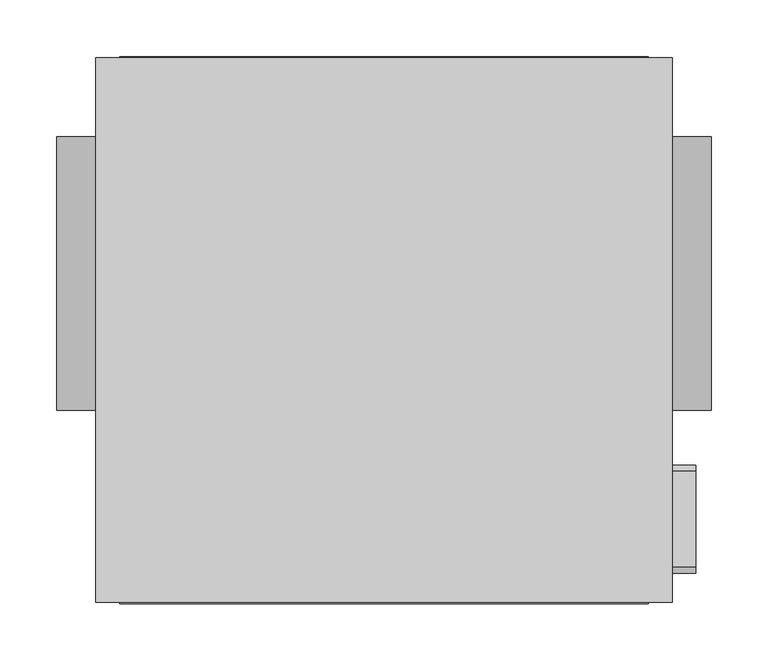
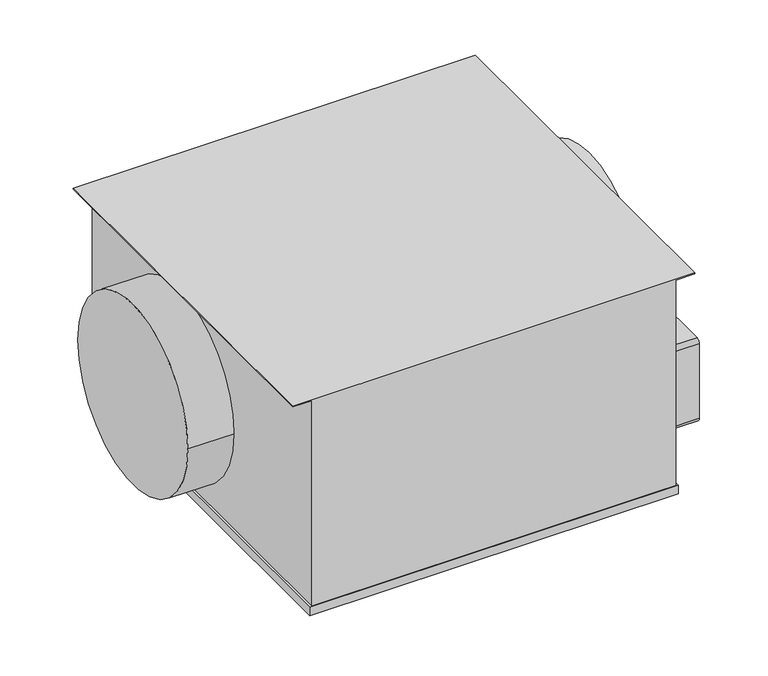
"""IFC4 building model written with IfcOpenShell, lengths in millimetres: unitary equipment geometry, VE-Wentylator-ParaForma-Harmann-ECOBOX_EC-Nawiewny : 250/1200EC."""

import ifcopenshell
import ifcopenshell.guid

model = None  # the IFC model being written
_history = None  # IfcOwnerHistory: only IFC2X3 demands one
_inside = {}  # id of a spatial element -> (the spatial element, [elements in it])
_under = {}  # id of a project, library or spatial element -> (it, [spatial elements below it])
_declared = {}  # id of a project -> (the project, [libraries it declares])
_typed = {}  # id of a type object -> (the type object, [elements of that type])
_made_of = {}  # id of a material, layer set ... -> (it, [elements and type objects made of it])


def new_model(schema):
    """Start an empty IFC model of exactly this schema.

    Asked for "IFC4X3", IfcOpenShell would pick the latest addendum, in which some entities
    have other attributes; the version numbers below select the first issue.
    IFC2X3 requires an IfcOwnerHistory on every rooted entity: one is made here for all.
    """
    global model, _history
    if schema == "IFC4X3":
        model = ifcopenshell.file(schema_version=(4, 3, 0, 0))
    else:
        model = ifcopenshell.file(schema=schema)
    _inside.clear()
    _under.clear()
    _declared.clear()
    _typed.clear()
    _made_of.clear()
    _history = None
    if model.schema == "IFC2X3":
        org = make("IfcOrganization", Name="unknown")
        user = make(
            "IfcPersonAndOrganization",
            ThePerson=make("IfcPerson", FamilyName="unknown"),
            TheOrganization=org,
        )
        app = make(
            "IfcApplication",
            ApplicationDeveloper=org,
            Version="unknown",
            ApplicationFullName="unknown",
            ApplicationIdentifier="unknown",
        )
        _history = make(
            "IfcOwnerHistory",
            OwningUser=user,
            OwningApplication=app,
            ChangeAction="ADDED",
            CreationDate=0,
        )
    return model


def make(cls, **values):
    """One entity of the class cls with the attributes given. An attribute that is None is left unset."""
    return model.create_entity(
        cls, **{name: value for name, value in values.items() if value is not None}
    )


def rooted(cls, **values):
    """An entity with a GlobalId (a new one), such as an element, a storey or a relation."""
    return make(cls, GlobalId=ifcopenshell.guid.new(), OwnerHistory=_history, **values)


def si_unit(unit_type, name, prefix=None):
    """IfcSIUnit, for example si_unit("LENGTHUNIT", "METRE", prefix="MILLI")."""
    return make("IfcSIUnit", UnitType=unit_type, Prefix=prefix, Name=name)


def assignment(units):
    """IfcUnitAssignment: the units of a project."""
    return None if units is None else make("IfcUnitAssignment", Units=units)


def point(xyz):
    """IfcCartesianPoint."""
    return None if xyz is None else make("IfcCartesianPoint", Coordinates=xyz)


def direction(xyz):
    """IfcDirection."""
    return None if xyz is None else make("IfcDirection", DirectionRatios=xyz)


def frame(location, z_axis=None, x_axis=None):
    """IfcAxis2Placement3D, a coordinate frame: its origin and axes. An axis left out is left unset."""
    return make(
        "IfcAxis2Placement3D",
        Location=point(location),
        Axis=direction(z_axis),
        RefDirection=direction(x_axis),
    )


def frame_2d(location, x_axis=None):
    """IfcAxis2Placement2D, a coordinate frame in the plane: its origin and x axis."""
    return make(
        "IfcAxis2Placement2D", Location=point(location), RefDirection=direction(x_axis)
    )


def origin():
    """The frame at (0, 0, 0) with its axes left unset."""
    return frame((0.0, 0.0, 0.0))


def origin_2d():
    """The frame at (0, 0) in the plane with its x axis left unset."""
    return frame_2d((0.0, 0.0))


def place(relative_to, where):
    """IfcLocalPlacement: puts the frame where relative to a parent placement (None: the world)."""
    return make(
        "IfcLocalPlacement", PlacementRelTo=relative_to, RelativePlacement=where
    )


def context(
    kind, dimensions, precision=None, world=None, true_north=None, identifier=None
):
    """IfcGeometricRepresentationContext, for example the 3D "Model" context."""
    return make(
        "IfcGeometricRepresentationContext",
        ContextIdentifier=identifier,
        ContextType=kind,
        CoordinateSpaceDimension=dimensions,
        Precision=precision,
        WorldCoordinateSystem=world,
        TrueNorth=true_north,
    )


def project(units=None, contexts=None):
    """IfcProject with its units and contexts."""
    return rooted(
        "IfcProject",
        Name="project",
        RepresentationContexts=contexts,
        UnitsInContext=assignment(units),
    )


def spatial(cls, under=None, at=None, **own):
    """A site, building, storey or space (cls), placed at a placement, below another one or the project."""
    s = rooted(cls, ObjectPlacement=at, **own)
    if under is not None:
        _under.setdefault(under.id(), (under, []))[1].append(s)
    return s


def polyline(points):
    """IfcPolyline through the points."""
    return make("IfcPolyline", Points=[point(p) for p in points])


def circle_curve(where, radius):
    """IfcCircle in the frame where."""
    return make("IfcCircle", Position=where, Radius=radius)


def trimmed(basis, trim1, trim2, sense, master):
    """IfcTrimmedCurve: the piece of a basis curve between two trims."""
    return make(
        "IfcTrimmedCurve",
        BasisCurve=basis,
        Trim1=trim1,
        Trim2=trim2,
        SenseAgreement=sense,
        MasterRepresentation=master,
    )


def segment(curve, same_sense, transition):
    """IfcCompositeCurveSegment."""
    return make(
        "IfcCompositeCurveSegment",
        Transition=transition,
        SameSense=same_sense,
        ParentCurve=curve,
    )


def composite_curve(segments, self_intersect=None):
    """IfcCompositeCurve: segments joined end to end."""
    return make("IfcCompositeCurve", Segments=segments, SelfIntersect=self_intersect)


def outline(outer, holes=None, kind="AREA"):
    """IfcArbitraryClosedProfileDef: a profile drawn as a closed curve; with holes, ...WithVoids."""
    if holes is None:
        return make("IfcArbitraryClosedProfileDef", ProfileType=kind, OuterCurve=outer)
    return make(
        "IfcArbitraryProfileDefWithVoids",
        ProfileType=kind,
        OuterCurve=outer,
        InnerCurves=holes,
    )


def extrude(swept, where, along, depth):
    """IfcExtrudedAreaSolid: the profile swept, set in the frame where, extruded along a direction by depth."""
    return make(
        "IfcExtrudedAreaSolid",
        SweptArea=swept,
        Position=where,
        ExtrudedDirection=direction(along),
        Depth=depth,
    )


def shape(context_of_items, identifier, shape_type, items):
    """IfcShapeRepresentation: the items that make up one representation, for example the "Body"."""
    return make(
        "IfcShapeRepresentation",
        ContextOfItems=context_of_items,
        RepresentationIdentifier=identifier,
        RepresentationType=shape_type,
        Items=items,
    )


def source(mapping_origin, context_of_items, identifier, shape_type, items):
    """IfcRepresentationMap: a shape defined once, which mapped items show again and again."""
    return make(
        "IfcRepresentationMap",
        MappingOrigin=mapping_origin,
        MappedRepresentation=shape(context_of_items, identifier, shape_type, items),
    )


def transform(
    local_origin,
    x_axis=None,
    y_axis=None,
    z_axis=None,
    scale=None,
    scale2=None,
    scale3=None,
    uniform=True,
):
    """IfcCartesianTransformationOperator3D, or its non-uniform kind. x_axis, y_axis, z_axis: its Axis1, 2, 3."""
    if uniform:
        return make(
            "IfcCartesianTransformationOperator3D",
            Axis1=direction(x_axis),
            Axis2=direction(y_axis),
            LocalOrigin=point(local_origin),
            Scale=scale,
            Axis3=direction(z_axis),
        )
    return make(
        "IfcCartesianTransformationOperator3DnonUniform",
        Axis1=direction(x_axis),
        Axis2=direction(y_axis),
        LocalOrigin=point(local_origin),
        Scale=scale,
        Axis3=direction(z_axis),
        Scale2=scale2,
        Scale3=scale3,
    )


def mapped(mapping_source, mapping_target):
    """IfcMappedItem: shows the shape of a source again, moved by a transform."""
    return make(
        "IfcMappedItem", MappingSource=mapping_source, MappingTarget=mapping_target
    )


def made_of(thing, what):
    """Note that an element or type object is made of a material, layer set ...; save() writes the relation."""
    if what is not None:
        _made_of.setdefault(what.id(), (what, []))[1].append(thing)
    return thing


def element(
    cls,
    number,
    at=None,
    inside=None,
    cuts=None,
    type_object=None,
    material=None,
    context=None,
    identifier="Body",
    shape_type=None,
    held_by="IfcProductDefinitionShape",
    body=None,
    shapes=None,
    **own,
):
    """One element of the class cls, such as IfcWall. Its Tag is "e" and its number.

    at: its placement. inside: the storey or other place that contains it. cuts: it is an
    opening in that element (IfcRelVoidsElement). A single representation is given by context,
    identifier, shape_type and body (its items); several are given by shapes. held_by: the class
    of the entity that holds the representations. save() writes the other relations.
    """
    e = rooted(cls, Tag="e%d" % number, ObjectPlacement=at, **own)
    if body is not None:
        shapes = [shape(context, identifier, shape_type, body)]
    if shapes is not None:
        e.Representation = make(held_by, Representations=shapes)
    if inside is not None:
        _inside.setdefault(inside.id(), (inside, []))[1].append(e)
    if cuts is not None:
        rooted(
            "IfcRelVoidsElement", RelatingBuildingElement=cuts, RelatedOpeningElement=e
        )
    if type_object is not None:
        _typed.setdefault(type_object.id(), (type_object, []))[1].append(e)
    return made_of(e, material)


def aggregate(whole, parts):
    """IfcRelAggregates: a whole, such as a stair, and the parts it consists of."""
    return rooted("IfcRelAggregates", RelatingObject=whole, RelatedObjects=parts)


def save(model, path):
    """Write the relations noted so far, then the file.

    IfcRelAggregates (storeys below a building ...), IfcRelContainedInSpatialStructure (elements
    in a storey), IfcRelDefinesByType, IfcRelAssociatesMaterial and IfcRelDeclares: one each for
    every whole, place, type object, material and project.
    """
    for whole, parts in _under.values():
        aggregate(whole, parts)
    for where, things in _inside.values():
        rooted(
            "IfcRelContainedInSpatialStructure",
            RelatedElements=things,
            RelatingStructure=where,
        )
    for kind, things in _typed.values():
        rooted("IfcRelDefinesByType", RelatedObjects=things, RelatingType=kind)
    for what, things in _made_of.values():
        rooted("IfcRelAssociatesMaterial", RelatedObjects=things, RelatingMaterial=what)
    for by, libraries in _declared.values():
        rooted("IfcRelDeclares", RelatingContext=by, RelatedDefinitions=libraries)
    model.write(path)


def unitary_equipment_b75d6688(model_context):
    return source(origin(), model_context, "Body", "SweptSolid", [
        extrude(outline(composite_curve([segment(trimmed(circle_curve(frame_2d((-259.1, -69.5)), 5.0), [point((-259.1, -74.5))], [point((-264.1, -69.5))], False, "CARTESIAN"), True, "CONTINUOUS"), segment(polyline([(-264.1, -69.5), (-264.1, 30.5)]), True, "CONTINUOUS"), segment(trimmed(circle_curve(frame_2d((-259.1, 30.5)), 5.0), [point((-264.1, 30.5))], [point((-259.1, 35.5))], False, "CARTESIAN"), True, "CONTINUOUS"), segment(polyline([(-259.1, 35.5), (-174.1, 35.5)]), True, "CONTINUOUS"), segment(trimmed(circle_curve(frame_2d((-174.1, 30.5)), 5.0), [point((-174.1, 35.5))], [point((-169.1, 30.5))], False, "CARTESIAN"), True, "CONTINUOUS"), segment(polyline([(-169.1, 30.5), (-169.1, -69.5)]), True, "CONTINUOUS"), segment(trimmed(circle_curve(frame_2d((-174.1, -69.5)), 5.0), [point((-169.1, -69.5))], [point((-174.1, -74.5))], False, "CARTESIAN"), True, "CONTINUOUS"), segment(polyline([(-174.1, -74.5), (-259.1, -74.5)]), True, "CONTINUOUS")], self_intersect=False)), frame((230.0, 0.0, 0.0), z_axis=(1.0, 0.0, 0.0), x_axis=(0.0, 1.0, 0.0)), (0.0, 0.0, 1.0), 45.0),
        extrude(outline(polyline([(-232.9, -291.1), (-232.9, 191.1), (232.9, 191.1), (232.9, -291.1), (-232.9, -291.1)])), frame((0.0, 0.0, -138.8), z_axis=(0.0, 0.0, 1.0), x_axis=(1.0, 0.0, 0.0)), (0.0, 0.0, 1.0), 10.9),
        extrude(outline(polyline([(148.0, -254.0), (147.0, -254.0), (147.0, -230.0), (-127.9, -230.0), (-127.9, 230.0), (147.0, 230.0), (147.0, 254.0), (148.0, 254.0), (148.0, -254.0)])), frame((0.0, -290.0, 0.0), z_axis=(0.0, 1.0, 0.0), x_axis=(0.0, 0.0, 1.0)), (0.0, 0.0, 1.0), 480.0),
        extrude(outline(composite_curve([segment(trimmed(circle_curve(origin_2d(), 120.5), [point((-120.5, 0.0))], [point((120.5, 0.0))], False, "CARTESIAN"), True, "CONTINUOUS"), segment(trimmed(circle_curve(origin_2d(), 120.5), [point((120.5, 0.0))], [point((-120.5, 0.0))], False, "CARTESIAN"), True, "CONTINUOUS")], self_intersect=False)), frame((230.0, 0.0, 0.0), z_axis=(1.0, 0.0, 0.0), x_axis=(0.0, 1.0, 0.0)), (0.0, 0.0, 1.0), 58.5),
        extrude(outline(composite_curve([segment(trimmed(circle_curve(origin_2d(), 120.5), [point((-120.5, 0.0))], [point((120.5, 0.0))], False, "CARTESIAN"), True, "CONTINUOUS"), segment(trimmed(circle_curve(origin_2d(), 120.5), [point((120.5, 0.0))], [point((-120.5, 0.0))], False, "CARTESIAN"), True, "CONTINUOUS")], self_intersect=False)), frame((-288.5, 0.0, 0.0), z_axis=(1.0, 0.0, 0.0), x_axis=(0.0, 1.0, 0.0)), (0.0, 0.0, 1.0), 58.5),
    ])


if __name__ == "__main__":
    model = new_model("IFC4")
    model_context = context("Model", 3, world=origin())
    ifc_project = project(units=[si_unit("LENGTHUNIT", "METRE", prefix="MILLI")], contexts=[model_context])
    site = spatial("IfcSite", under=ifc_project)
    building = spatial("IfcBuilding", under=site)
    placement = place(None, origin())
    unitary_equipment_shape = unitary_equipment_b75d6688(model_context)
    element("IfcUnitaryEquipment", 1, ObjectType="VE-Wentylator-ParaForma-Harmann-ECOBOX_EC-Nawiewny : 250/1200EC", at=placement, inside=building, context=model_context, shape_type="MappedRepresentation", body=[
        mapped(unitary_equipment_shape, transform((0.0, 0.0, 0.0), x_axis=(1.0, 0.0, 0.0), y_axis=(0.0, 1.0, 0.0), z_axis=(0.0, 0.0, 1.0))),
    ])
    save(model, "model.ifc")
